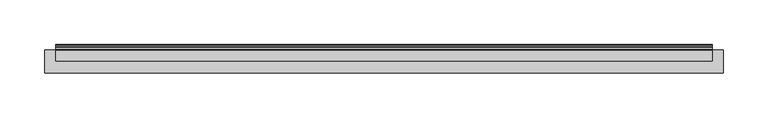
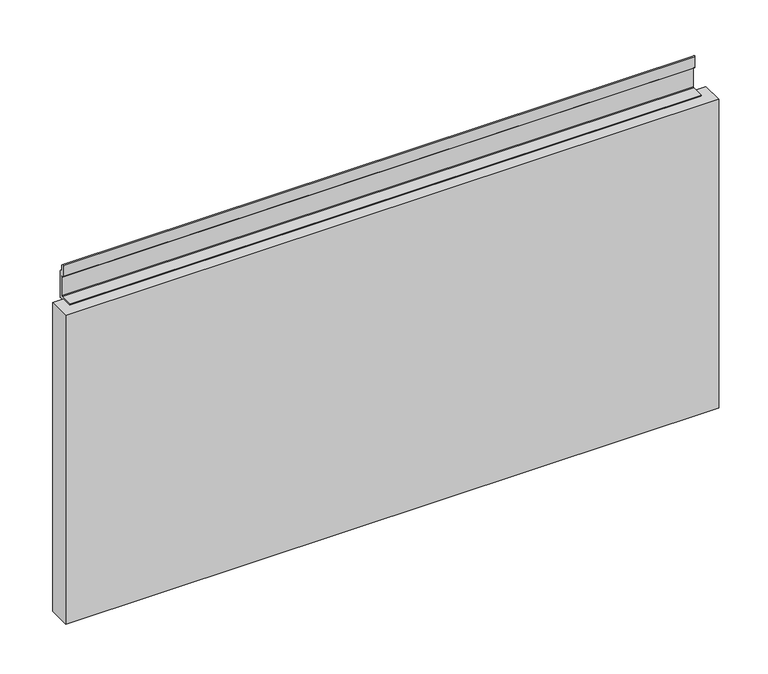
"""IFC4 building model written with IfcOpenShell, lengths in millimetres: furniture geometry, Geiger_GeigerOneCasegoods_WallTileAcceptsTileAbove : TFL 30Wx 1.25Dx 15H."""

import ifcopenshell
import ifcopenshell.guid

model = None  # the IFC model being written
_history = None  # IfcOwnerHistory: only IFC2X3 demands one
_inside = {}  # id of a spatial element -> (the spatial element, [elements in it])
_under = {}  # id of a project, library or spatial element -> (it, [spatial elements below it])
_declared = {}  # id of a project -> (the project, [libraries it declares])
_typed = {}  # id of a type object -> (the type object, [elements of that type])
_made_of = {}  # id of a material, layer set ... -> (it, [elements and type objects made of it])


def new_model(schema):
    """Start an empty IFC model of exactly this schema.

    Asked for "IFC4X3", IfcOpenShell would pick the latest addendum, in which some entities
    have other attributes; the version numbers below select the first issue.
    IFC2X3 requires an IfcOwnerHistory on every rooted entity: one is made here for all.
    """
    global model, _history
    if schema == "IFC4X3":
        model = ifcopenshell.file(schema_version=(4, 3, 0, 0))
    else:
        model = ifcopenshell.file(schema=schema)
    _inside.clear()
    _under.clear()
    _declared.clear()
    _typed.clear()
    _made_of.clear()
    _history = None
    if model.schema == "IFC2X3":
        org = make("IfcOrganization", Name="unknown")
        user = make(
            "IfcPersonAndOrganization",
            ThePerson=make("IfcPerson", FamilyName="unknown"),
            TheOrganization=org,
        )
        app = make(
            "IfcApplication",
            ApplicationDeveloper=org,
            Version="unknown",
            ApplicationFullName="unknown",
            ApplicationIdentifier="unknown",
        )
        _history = make(
            "IfcOwnerHistory",
            OwningUser=user,
            OwningApplication=app,
            ChangeAction="ADDED",
            CreationDate=0,
        )
    return model


def make(cls, **values):
    """One entity of the class cls with the attributes given. An attribute that is None is left unset."""
    return model.create_entity(
        cls, **{name: value for name, value in values.items() if value is not None}
    )


def rooted(cls, **values):
    """An entity with a GlobalId (a new one), such as an element, a storey or a relation."""
    return make(cls, GlobalId=ifcopenshell.guid.new(), OwnerHistory=_history, **values)


def si_unit(unit_type, name, prefix=None):
    """IfcSIUnit, for example si_unit("LENGTHUNIT", "METRE", prefix="MILLI")."""
    return make("IfcSIUnit", UnitType=unit_type, Prefix=prefix, Name=name)


def assignment(units):
    """IfcUnitAssignment: the units of a project."""
    return None if units is None else make("IfcUnitAssignment", Units=units)


def point(xyz):
    """IfcCartesianPoint."""
    return None if xyz is None else make("IfcCartesianPoint", Coordinates=xyz)


def direction(xyz):
    """IfcDirection."""
    return None if xyz is None else make("IfcDirection", DirectionRatios=xyz)


def frame(location, z_axis=None, x_axis=None):
    """IfcAxis2Placement3D, a coordinate frame: its origin and axes. An axis left out is left unset."""
    return make(
        "IfcAxis2Placement3D",
        Location=point(location),
        Axis=direction(z_axis),
        RefDirection=direction(x_axis),
    )


def frame_2d(location, x_axis=None):
    """IfcAxis2Placement2D, a coordinate frame in the plane: its origin and x axis."""
    return make(
        "IfcAxis2Placement2D", Location=point(location), RefDirection=direction(x_axis)
    )


def origin():
    """The frame at (0, 0, 0) with its axes left unset."""
    return frame((0.0, 0.0, 0.0))


def origin_with_axes():
    """The frame at (0, 0, 0) with the z axis (0, 0, 1) and the x axis (1, 0, 0) written out."""
    return frame((0.0, 0.0, 0.0), z_axis=(0.0, 0.0, 1.0), x_axis=(1.0, 0.0, 0.0))


def place(relative_to, where):
    """IfcLocalPlacement: puts the frame where relative to a parent placement (None: the world)."""
    return make(
        "IfcLocalPlacement", PlacementRelTo=relative_to, RelativePlacement=where
    )


def context(
    kind, dimensions, precision=None, world=None, true_north=None, identifier=None
):
    """IfcGeometricRepresentationContext, for example the 3D "Model" context."""
    return make(
        "IfcGeometricRepresentationContext",
        ContextIdentifier=identifier,
        ContextType=kind,
        CoordinateSpaceDimension=dimensions,
        Precision=precision,
        WorldCoordinateSystem=world,
        TrueNorth=true_north,
    )


def project(units=None, contexts=None):
    """IfcProject with its units and contexts."""
    return rooted(
        "IfcProject",
        Name="project",
        RepresentationContexts=contexts,
        UnitsInContext=assignment(units),
    )


def spatial(cls, under=None, at=None, **own):
    """A site, building, storey or space (cls), placed at a placement, below another one or the project."""
    s = rooted(cls, ObjectPlacement=at, **own)
    if under is not None:
        _under.setdefault(under.id(), (under, []))[1].append(s)
    return s


def polyline(points):
    """IfcPolyline through the points."""
    return make("IfcPolyline", Points=[point(p) for p in points])


def circle_curve(where, radius):
    """IfcCircle in the frame where."""
    return make("IfcCircle", Position=where, Radius=radius)


def trimmed(basis, trim1, trim2, sense, master):
    """IfcTrimmedCurve: the piece of a basis curve between two trims."""
    return make(
        "IfcTrimmedCurve",
        BasisCurve=basis,
        Trim1=trim1,
        Trim2=trim2,
        SenseAgreement=sense,
        MasterRepresentation=master,
    )


def segment(curve, same_sense, transition):
    """IfcCompositeCurveSegment."""
    return make(
        "IfcCompositeCurveSegment",
        Transition=transition,
        SameSense=same_sense,
        ParentCurve=curve,
    )


def composite_curve(segments, self_intersect=None):
    """IfcCompositeCurve: segments joined end to end."""
    return make("IfcCompositeCurve", Segments=segments, SelfIntersect=self_intersect)


def outline(outer, holes=None, kind="AREA"):
    """IfcArbitraryClosedProfileDef: a profile drawn as a closed curve; with holes, ...WithVoids."""
    if holes is None:
        return make("IfcArbitraryClosedProfileDef", ProfileType=kind, OuterCurve=outer)
    return make(
        "IfcArbitraryProfileDefWithVoids",
        ProfileType=kind,
        OuterCurve=outer,
        InnerCurves=holes,
    )


def extrude(swept, where, along, depth):
    """IfcExtrudedAreaSolid: the profile swept, set in the frame where, extruded along a direction by depth."""
    return make(
        "IfcExtrudedAreaSolid",
        SweptArea=swept,
        Position=where,
        ExtrudedDirection=direction(along),
        Depth=depth,
    )


def shape(context_of_items, identifier, shape_type, items):
    """IfcShapeRepresentation: the items that make up one representation, for example the "Body"."""
    return make(
        "IfcShapeRepresentation",
        ContextOfItems=context_of_items,
        RepresentationIdentifier=identifier,
        RepresentationType=shape_type,
        Items=items,
    )


def source(mapping_origin, context_of_items, identifier, shape_type, items):
    """IfcRepresentationMap: a shape defined once, which mapped items show again and again."""
    return make(
        "IfcRepresentationMap",
        MappingOrigin=mapping_origin,
        MappedRepresentation=shape(context_of_items, identifier, shape_type, items),
    )


def transform(
    local_origin,
    x_axis=None,
    y_axis=None,
    z_axis=None,
    scale=None,
    scale2=None,
    scale3=None,
    uniform=True,
):
    """IfcCartesianTransformationOperator3D, or its non-uniform kind. x_axis, y_axis, z_axis: its Axis1, 2, 3."""
    if uniform:
        return make(
            "IfcCartesianTransformationOperator3D",
            Axis1=direction(x_axis),
            Axis2=direction(y_axis),
            LocalOrigin=point(local_origin),
            Scale=scale,
            Axis3=direction(z_axis),
        )
    return make(
        "IfcCartesianTransformationOperator3DnonUniform",
        Axis1=direction(x_axis),
        Axis2=direction(y_axis),
        LocalOrigin=point(local_origin),
        Scale=scale,
        Axis3=direction(z_axis),
        Scale2=scale2,
        Scale3=scale3,
    )


def mapped(mapping_source, mapping_target):
    """IfcMappedItem: shows the shape of a source again, moved by a transform."""
    return make(
        "IfcMappedItem", MappingSource=mapping_source, MappingTarget=mapping_target
    )


def made_of(thing, what):
    """Note that an element or type object is made of a material, layer set ...; save() writes the relation."""
    if what is not None:
        _made_of.setdefault(what.id(), (what, []))[1].append(thing)
    return thing


def element(
    cls,
    number,
    at=None,
    inside=None,
    cuts=None,
    type_object=None,
    material=None,
    context=None,
    identifier="Body",
    shape_type=None,
    held_by="IfcProductDefinitionShape",
    body=None,
    shapes=None,
    **own,
):
    """One element of the class cls, such as IfcWall. Its Tag is "e" and its number.

    at: its placement. inside: the storey or other place that contains it. cuts: it is an
    opening in that element (IfcRelVoidsElement). A single representation is given by context,
    identifier, shape_type and body (its items); several are given by shapes. held_by: the class
    of the entity that holds the representations. save() writes the other relations.
    """
    e = rooted(cls, Tag="e%d" % number, ObjectPlacement=at, **own)
    if body is not None:
        shapes = [shape(context, identifier, shape_type, body)]
    if shapes is not None:
        e.Representation = make(held_by, Representations=shapes)
    if inside is not None:
        _inside.setdefault(inside.id(), (inside, []))[1].append(e)
    if cuts is not None:
        rooted(
            "IfcRelVoidsElement", RelatingBuildingElement=cuts, RelatedOpeningElement=e
        )
    if type_object is not None:
        _typed.setdefault(type_object.id(), (type_object, []))[1].append(e)
    return made_of(e, material)


def aggregate(whole, parts):
    """IfcRelAggregates: a whole, such as a stair, and the parts it consists of."""
    return rooted("IfcRelAggregates", RelatingObject=whole, RelatedObjects=parts)


def save(model, path):
    """Write the relations noted so far, then the file.

    IfcRelAggregates (storeys below a building ...), IfcRelContainedInSpatialStructure (elements
    in a storey), IfcRelDefinesByType, IfcRelAssociatesMaterial and IfcRelDeclares: one each for
    every whole, place, type object, material and project.
    """
    for whole, parts in _under.values():
        aggregate(whole, parts)
    for where, things in _inside.values():
        rooted(
            "IfcRelContainedInSpatialStructure",
            RelatedElements=things,
            RelatingStructure=where,
        )
    for kind, things in _typed.values():
        rooted("IfcRelDefinesByType", RelatedObjects=things, RelatingType=kind)
    for what, things in _made_of.values():
        rooted("IfcRelAssociatesMaterial", RelatedObjects=things, RelatingMaterial=what)
    for by, libraries in _declared.values():
        rooted("IfcRelDeclares", RelatingContext=by, RelatedDefinitions=libraries)
    model.write(path)


def furniture_a15ab5ae(model_context):
    return source(origin(), model_context, "Body", "SweptSolid", [
        extrude(outline(polyline([(762.0, 0.0), (762.0, -26.0), (0.0, -26.0), (0.0, 0.0), (762.0, 0.0)])), origin_with_axes(), (0.0, 0.0, 1.0), 381.0),
        extrude(outline(composite_curve([segment(polyline([(2.8956, 46.3366), (3.7084, 45.5238), (5.588, 45.5238), (6.4008, 44.7364), (6.4008, 31.3252)]), True, "CONTINUOUS"), segment(trimmed(circle_curve(frame_2d((5.6011704, 31.3252)), 0.7996296), [point((6.4008, 31.3252))], [point((5.0292, 30.7664))], False, "CARTESIAN"), True, "CONTINUOUS"), segment(polyline([(5.0292, 30.7664), (3.5052, 32.2904), (3.5052, 39.2246), (2.6924, 40.012), (0.7874, 40.012), (0.0, 40.8248), (0.0, 72.524), (1.2954, 72.524), (2.8956, 70.9238), (2.8956, 46.3366)]), True, "CONTINUOUS")], self_intersect=False)), frame((636.0047, 0.0, 0.0), z_axis=(1.0, 0.0, 0.0), x_axis=(0.0, 1.0, 0.0)), (0.0, 0.0, 1.0), 75.9906),
        extrude(outline(composite_curve([segment(polyline([(3.5052, 32.2904), (3.5052, 39.2246), (2.6924, 40.012), (0.7874, 40.012), (0.0, 40.8248), (0.0, 72.524), (1.2954, 72.524), (2.8956, 70.9238), (2.8956, 46.3366), (3.7084, 45.5238), (5.588, 45.5238), (6.4008, 44.7364), (6.4008, 31.3252)]), True, "CONTINUOUS"), segment(trimmed(circle_curve(frame_2d((5.6011704, 31.3252)), 0.7996296), [point((6.4008, 31.3252))], [point((5.0292, 30.7664))], False, "CARTESIAN"), True, "CONTINUOUS"), segment(polyline([(5.0292, 30.7664), (3.5052, 32.2904)]), True, "CONTINUOUS")], self_intersect=False)), frame((49.9953, 0.0, 0.0), z_axis=(1.0, 0.0, 0.0), x_axis=(0.0, 1.0, 0.0)), (0.0, 0.0, 1.0), 76.0094),
        extrude(outline(composite_curve([segment(polyline([(2.8956, 421.2322), (2.8956, 414.298), (3.683, 413.5106), (5.588, 413.5106), (6.4008, 412.6978), (6.4008, 379.3984), (3.7084, 379.3984), (2.8956, 378.611), (2.8956, 364.895), (3.7084, 364.1076), (6.4008, 364.1076), (6.4008, 361.1866), (0.7874, 361.1866), (0.0, 361.9994), (0.0, 380.9986), (-12.5984, 380.9986), (-12.5984, 382.5988), (2.6924, 382.5988), (3.5052, 383.3862), (3.5052, 407.2114), (2.6924, 407.9988), (0.7874, 407.9988), (0.0, 408.8116), (0.0, 422.224282)]), True, "CONTINUOUS"), segment(trimmed(circle_curve(frame_2d((0.788463, 422.224282)), 0.788463), [point((0.0, 422.224282))], [point((1.3459905, 422.7818095))], False, "CARTESIAN"), True, "CONTINUOUS"), segment(polyline([(1.3459905, 422.7818095), (2.8956, 421.2322)]), True, "CONTINUOUS")], self_intersect=False)), frame((12.5, 0.0, 0.0), z_axis=(1.0, 0.0, 0.0), x_axis=(0.0, 1.0, 0.0)), (0.0, 0.0, 1.0), 737.0),
    ])


if __name__ == "__main__":
    model = new_model("IFC4")
    model_context = context("Model", 3, world=origin())
    ifc_project = project(units=[si_unit("LENGTHUNIT", "METRE", prefix="MILLI")], contexts=[model_context])
    site = spatial("IfcSite", under=ifc_project)
    building = spatial("IfcBuilding", under=site)
    placement = place(None, origin())
    furniture_shape = furniture_a15ab5ae(model_context)
    element("IfcFurniture", 1, ObjectType="Geiger_GeigerOneCasegoods_WallTileAcceptsTileAbove : TFL 30Wx 1.25Dx 15H", at=placement, inside=building, context=model_context, shape_type="MappedRepresentation", body=[
        mapped(furniture_shape, transform((0.0, 0.0, 0.0), x_axis=(1.0, 0.0, 0.0), y_axis=(0.0, 1.0, 0.0), z_axis=(0.0, 0.0, 1.0))),
    ])
    save(model, "model.ifc")
